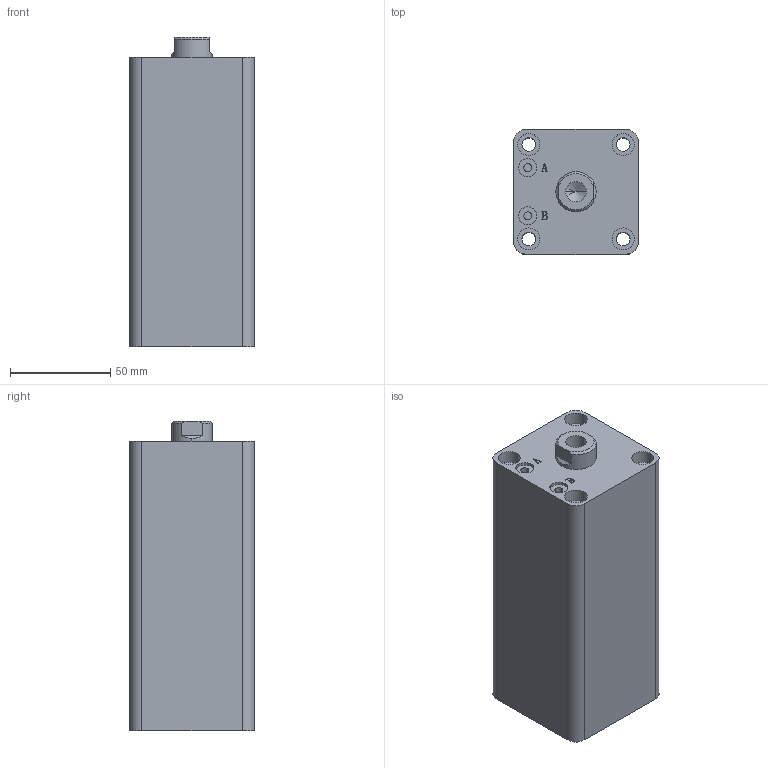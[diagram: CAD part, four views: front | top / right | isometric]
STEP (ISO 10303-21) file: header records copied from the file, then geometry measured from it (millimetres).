
FILE_DESCRIPTION (( 'STEP AP203' ), '1' );
FILE_NAME ('HTB-SDMA32-90N.STEP', '2019-10-07T11:45:10', ( '微软用户' ), ( '微软中国' ), 'SwSTEP 2.0', 'SolidWorks 2012', '' );
FILE_SCHEMA (( 'CONFIG_CONTROL_DESIGN' ));
Length unit declared in the file: millimetre
Products named in the file (3): HTB-SDMA32-90N; HTB-SDMA32-90N活塞杆; HTB-SDMA32-90掛极
Assembly tree (2 placements, depth 2):
  HTB-SDMA32-90N
    HTB-SDMA32-90掛极
    HTB-SDMA32-90N活塞杆
Bounding box: 62 x 62 x 154 mm (x, y, z)
Volume: 482016.2 mm3; surface area: 80227.7 mm2
Topology: 2 solids, 2 shells, 137 faces, 331 edges, 217 vertices
Faces by surface type: plane 65, cylinder 46, bspline 16, torus 6, cone 4
Entity records: 5070 total; most frequent: CARTESIAN_POINT 1576, ORIENTED_EDGE 658, DIRECTION 647, EDGE_CURVE 329, AXIS2_PLACEMENT_3D 232, VERTEX_POINT 217, VECTOR 183, LINE 183
